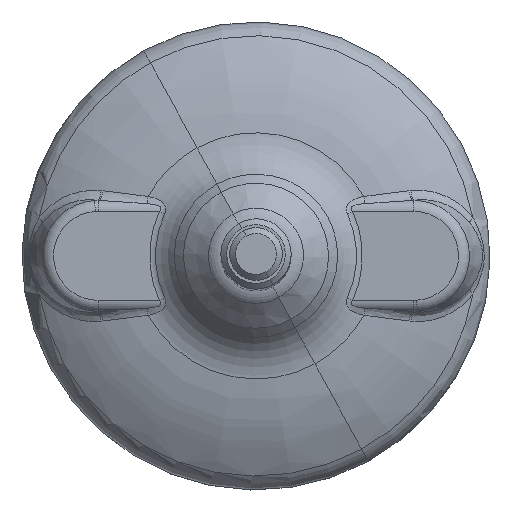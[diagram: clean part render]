
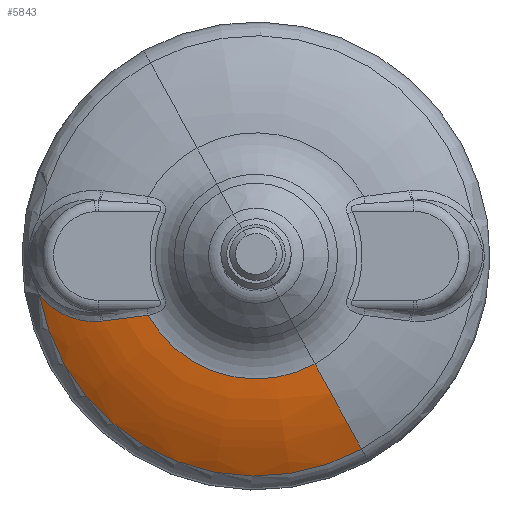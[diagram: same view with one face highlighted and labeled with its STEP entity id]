
A CAD part, top view. The second image highlights one B-rep face of the part: STEP entity #5843.
In plain terms, the highlighted face is a revolution surface.
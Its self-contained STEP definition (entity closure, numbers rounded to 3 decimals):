
#3259=EDGE_CURVE('',#9588,#9589,#9590,.T.);
#5843=ADVANCED_FACE('',(#13650),#13651,.F.);
#6345=EDGE_CURVE('',#11422,#13590,#14309,.T.);
#6371=EDGE_CURVE('',#9588,#12542,#14340,.F.);
#7729=EDGE_CURVE('',#13788,#11422,#16019,.F.);
#7819=EDGE_CURVE('',#12542,#13788,#16124,.F.);
#9588=VERTEX_POINT('',#18430);
#9589=VERTEX_POINT('',#18431);
#9590=CIRCLE('',#18432,21.038);
#11422=VERTEX_POINT('',#22787);
#12542=VERTEX_POINT('',#25675);
#13590=VERTEX_POINT('',#28753);
#13650=FACE_OUTER_BOUND('',#28910,.T.);
#13651=SURFACE_OF_REVOLUTION('',#28911,#28912);
#13788=VERTEX_POINT('',#29449);
#14309=CIRCLE('',#30882,37.634);
#14340=B_SPLINE_CURVE_WITH_KNOTS('',4,(#30965,#30966,#30967,#30968,#30969),.UNSPECIFIED.,.F.,.F.,(5,5),(20.75,31.959),.UNSPECIFIED.);
#16019=B_SPLINE_CURVE_WITH_KNOTS('',5,(#36308,#36309,#36310,#36311,#36312,#36313),.UNSPECIFIED.,.F.,.F.,(6,6),(43.774,58.613),.UNSPECIFIED.);
#16124=B_SPLINE_CURVE_WITH_KNOTS('',3,(#36770,#36771,#36772,#36773),.UNSPECIFIED.,.F.,.F.,(4,4),(19.617,20.078),.UNSPECIFIED.);
#18430=CARTESIAN_POINT('',(-18.427,-10.151,15.0));
#18431=CARTESIAN_POINT('',(10.086,-18.462,15.0));
#18432=AXIS2_PLACEMENT_3D('',#43359,#43360,#43361);
#22787=CARTESIAN_POINT('',(-37.066,-6.513,9.25));
#25675=CARTESIAN_POINT('',(-26.134,-11.126,13.458));
#28753=CARTESIAN_POINT('',(18.043,-33.027,9.25));
#28910=EDGE_LOOP('',(#46809,#46810,#46811,#46812,#46813,#46814));
#28911=B_SPLINE_CURVE_WITH_KNOTS('',4,(#46815,#46816,#46817,#46818,#46819),.UNSPECIFIED.,.F.,.F.,(5,5),(40.636,58.345),.UNSPECIFIED.);
#28912=AXIS1_PLACEMENT('',#46820,#46821);
#29449=CARTESIAN_POINT('',(-26.441,-11.158,13.365));
#30882=AXIS2_PLACEMENT_3D('',#47443,#47444,#47445);
#30965=CARTESIAN_POINT('',(-26.134,-11.126,13.458));
#30966=CARTESIAN_POINT('',(-24.229,-10.935,14.025));
#30967=CARTESIAN_POINT('',(-22.314,-10.652,14.473));
#30968=CARTESIAN_POINT('',(-20.38,-10.355,14.796));
#30969=CARTESIAN_POINT('',(-18.427,-10.151,15.));
#36308=CARTESIAN_POINT('',(-37.066,-6.513,9.25));
#36309=CARTESIAN_POINT('',(-35.329,-8.863,10.059));
#36310=CARTESIAN_POINT('',(-33.126,-10.273,11.025));
#36311=CARTESIAN_POINT('',(-30.9,-11.105,11.896));
#36312=CARTESIAN_POINT('',(-28.624,-11.385,12.697));
#36313=CARTESIAN_POINT('',(-26.441,-11.158,13.365));
#36770=CARTESIAN_POINT('',(-26.441,-11.158,13.365));
#36771=CARTESIAN_POINT('',(-26.339,-11.147,13.396));
#36772=CARTESIAN_POINT('',(-26.237,-11.137,13.427));
#36773=CARTESIAN_POINT('',(-26.134,-11.126,13.458));
#43359=CARTESIAN_POINT('',(0.0,0.0,15.0));
#43360=DIRECTION('',(0.0,0.0,1.0));
#43361=DIRECTION('',(1.0,0.0,0.0));
#46809=ORIENTED_EDGE('',*,*,#52612,.T.);
#46810=ORIENTED_EDGE('',*,*,#3259,.F.);
#46811=ORIENTED_EDGE('',*,*,#6371,.T.);
#46812=ORIENTED_EDGE('',*,*,#7819,.T.);
#46813=ORIENTED_EDGE('',*,*,#7729,.T.);
#46814=ORIENTED_EDGE('',*,*,#6345,.T.);
#46815=CARTESIAN_POINT('',(-18.043,33.027,9.25));
#46816=CARTESIAN_POINT('',(-16.239,29.725,11.582));
#46817=CARTESIAN_POINT('',(-14.27,26.12,13.36));
#46818=CARTESIAN_POINT('',(-12.195,22.323,14.504));
#46819=CARTESIAN_POINT('',(-10.086,18.462,15.0));
#46820=CARTESIAN_POINT('',(0.0,0.0,9.25));
#46821=DIRECTION('',(-0.0,-0.0,-1.0));
#47443=CARTESIAN_POINT('',(0.0,0.0,9.25));
#47444=DIRECTION('',(0.0,0.0,1.0));
#47445=DIRECTION('',(1.0,0.0,0.0));
#52612=EDGE_CURVE('',#13590,#9589,#53479,.T.);
#53479=B_SPLINE_CURVE_WITH_KNOTS('',4,(#54351,#54352,#54353,#54354,#54355),.UNSPECIFIED.,.F.,.F.,(5,5),(40.636,58.345),.UNSPECIFIED.);
#54351=CARTESIAN_POINT('',(18.043,-33.027,9.25));
#54352=CARTESIAN_POINT('',(16.239,-29.725,11.582));
#54353=CARTESIAN_POINT('',(14.27,-26.12,13.36));
#54354=CARTESIAN_POINT('',(12.195,-22.323,14.504));
#54355=CARTESIAN_POINT('',(10.086,-18.462,15.0));
